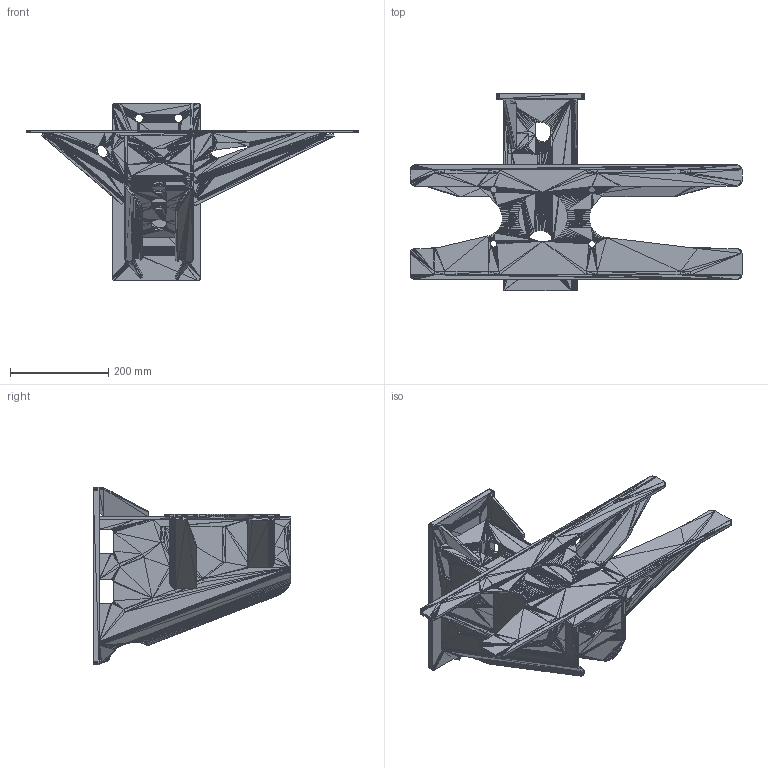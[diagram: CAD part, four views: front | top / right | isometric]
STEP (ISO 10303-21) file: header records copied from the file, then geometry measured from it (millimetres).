
FILE_DESCRIPTION(('HOOPS Exchange Step'),'2;1');
FILE_NAME('C:\Users\ametme3\OneDrive - HELLA GmbH & Co. KGaA\Shared Documents\SOE_Marketing_Internal\Product_Lines\Rear_Lamps\Unterfahrschutz\01 3D Daten\Brackets\3D_data_Bracket_left_short_9XX-340-383-01.stp','2023-02-14T11:37:25+01:00',('ametme3'),('Unknown organisation'),'HOOPS Exchange 2021.2','HOOPS Exchange','Unknown authorisation');
FILE_SCHEMA( ('AUTOMOTIVE_DESIGN { 1 0 10303 214 1 1 1 1 }') );
Length unit declared in the file: millimetre
Products named in the file (1): 10002990916_D10_001
Bounding box: 675 x 402 x 360 mm (x, y, z)
Surface area: 1237187.3 mm2 (no closed solid volume)
Topology: 0 solids, 557 shells, 9348 faces, 18860 edges, 9921 vertices
Faces by surface type: plane 9348
Entity records: 84782 total; most frequent: CARTESIAN_POINT 19270, DIRECTION 18698, AXIS2_PLACEMENT_3D 9349, PLANE 9348, POLY_LOOP 9348, FACE_OUTER_BOUND 9348, FACE_SURFACE 9348, CLOSED_SHELL 16
